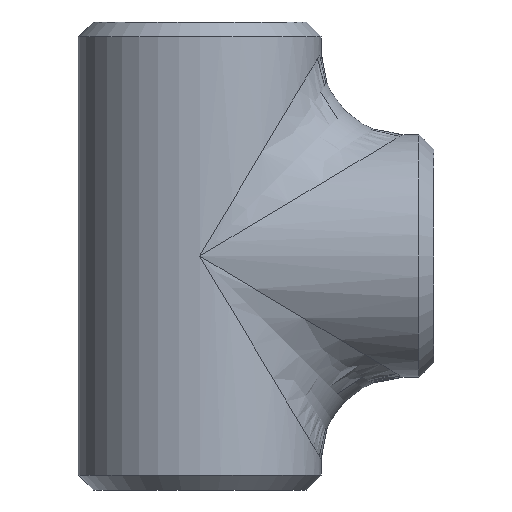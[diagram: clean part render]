
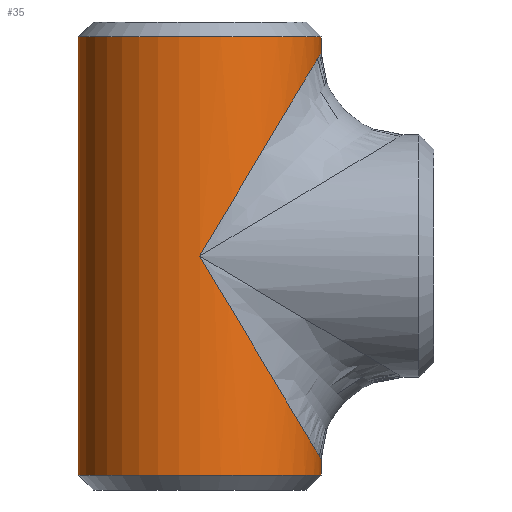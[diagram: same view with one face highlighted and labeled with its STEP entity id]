
A CAD part, front view. The second image highlights one B-rep face of the part: STEP entity #35.
In plain terms, the highlighted cylindrical face has radius 44.45 mm (diameter 88.9 mm), a partial arc.
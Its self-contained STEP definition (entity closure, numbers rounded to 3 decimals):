
#5 = CARTESIAN_POINT ( 'NONE',  ( 44.45, 0., -74.45 ) ) ;
#10 = EDGE_CURVE ( 'NONE', #217, #868, #406, .T. ) ;
#35 = ADVANCED_FACE ( 'NONE', ( #965 ), #846, .T. ) ;
#71 = EDGE_CURVE ( 'NONE', #622, #1042, #1344, .T. ) ;
#78 = VECTOR ( 'NONE', #987, 1000. ) ;
#94 = CARTESIAN_POINT ( 'NONE',  ( 44.45, -26.038, 74.45 ) ) ;
#113 = EDGE_CURVE ( 'NONE', #924, #1249, #275, .T. ) ;
#174 = VECTOR ( 'NONE', #1363, 1000. ) ;
#188 = ORIENTED_EDGE ( 'NONE', *, *, #113, .T. ) ;
#217 = VERTEX_POINT ( 'NONE', #529 ) ;
#227 = VECTOR ( 'NONE', #739, 1000. ) ;
#252 = ORIENTED_EDGE ( 'NONE', *, *, #755, .T. ) ;
#275 =( BOUNDED_CURVE ( )  B_SPLINE_CURVE ( 3, ( #627, #335, #94, #834 ),
 .UNSPECIFIED., .F., .T. ) 
 B_SPLINE_CURVE_WITH_KNOTS ( ( 4, 4 ),
 ( 1.571, 3.142 ),
 .UNSPECIFIED. ) 
 CURVE ( )  GEOMETRIC_REPRESENTATION_ITEM ( )  RATIONAL_B_SPLINE_CURVE ( ( 1., 0.805, 0.805, 1. ) ) 
 REPRESENTATION_ITEM ( '' )  );
#301 = DIRECTION ( 'NONE',  ( 1., 0., 0. ) ) ;
#311 = CARTESIAN_POINT ( 'NONE',  ( 44.45, 0., 85.7 ) ) ;
#326 = DIRECTION ( 'NONE',  ( 0., 0., -1. ) ) ;
#335 = CARTESIAN_POINT ( 'NONE',  ( 26.038, -44.45, 43.612 ) ) ;
#381 = EDGE_CURVE ( 'NONE', #622, #1249, #1371, .T. ) ;
#389 = ORIENTED_EDGE ( 'NONE', *, *, #10, .T. ) ;
#406 = CIRCLE ( 'NONE', #1304, 44.45 ) ;
#410 = DIRECTION ( 'NONE',  ( 1., 0., 0. ) ) ;
#435 = AXIS2_PLACEMENT_3D ( 'NONE', #753, #520, #410 ) ;
#444 = DIRECTION ( 'NONE',  ( -1., 0., 0. ) ) ;
#471 = EDGE_CURVE ( 'NONE', #1064, #868, #743, .T. ) ;
#520 = DIRECTION ( 'NONE',  ( 0., 0., -1. ) ) ;
#529 = CARTESIAN_POINT ( 'NONE',  ( -44.45, 0., -80.22 ) ) ;
#546 = CARTESIAN_POINT ( 'NONE',  ( 44.45, -26.038, -74.45 ) ) ;
#555 = ORIENTED_EDGE ( 'NONE', *, *, #471, .F. ) ;
#564 = LINE ( 'NONE', #1101, #78 ) ;
#568 = AXIS2_PLACEMENT_3D ( 'NONE', #1152, #326, #444 ) ;
#598 = CARTESIAN_POINT ( 'NONE',  ( 0., -44.45, 0. ) ) ;
#620 = DIRECTION ( 'NONE',  ( 0., 0., 1. ) ) ;
#622 = VERTEX_POINT ( 'NONE', #877 ) ;
#627 = CARTESIAN_POINT ( 'NONE',  ( 0., -44.45, 0. ) ) ;
#727 = ORIENTED_EDGE ( 'NONE', *, *, #381, .F. ) ;
#739 = DIRECTION ( 'NONE',  ( 0., 0., -1. ) ) ;
#743 = LINE ( 'NONE', #932, #174 ) ;
#753 = CARTESIAN_POINT ( 'NONE',  ( 0., 0., 80.22 ) ) ;
#755 = EDGE_CURVE ( 'NONE', #1064, #924, #842, .T. ) ;
#764 = CARTESIAN_POINT ( 'NONE',  ( 26.038, -44.45, -43.612 ) ) ;
#776 = EDGE_CURVE ( 'NONE', #1042, #217, #564, .T. ) ;
#779 = ORIENTED_EDGE ( 'NONE', *, *, #776, .T. ) ;
#789 = CARTESIAN_POINT ( 'NONE',  ( 0., -44.45, 0. ) ) ;
#818 = ORIENTED_EDGE ( 'NONE', *, *, #71, .T. ) ;
#834 = CARTESIAN_POINT ( 'NONE',  ( 44.45, 0., 74.45 ) ) ;
#837 = CARTESIAN_POINT ( 'NONE',  ( 44.45, 0., -74.45 ) ) ;
#838 = EDGE_LOOP ( 'NONE', ( #727, #818, #779, #389, #555, #252, #188 ) ) ;
#842 =( BOUNDED_CURVE ( )  B_SPLINE_CURVE ( 3, ( #5, #546, #764, #789 ),
 .UNSPECIFIED., .F., .F. ) 
 B_SPLINE_CURVE_WITH_KNOTS ( ( 4, 4 ),
 ( 3.142, 4.712 ),
 .UNSPECIFIED. ) 
 CURVE ( )  GEOMETRIC_REPRESENTATION_ITEM ( )  RATIONAL_B_SPLINE_CURVE ( ( 1., 0.805, 0.805, 1. ) ) 
 REPRESENTATION_ITEM ( '' )  );
#846 = CYLINDRICAL_SURFACE ( 'NONE', #568, 44.45 ) ;
#868 = VERTEX_POINT ( 'NONE', #910 ) ;
#877 = CARTESIAN_POINT ( 'NONE',  ( 44.45, 0., 80.22 ) ) ;
#910 = CARTESIAN_POINT ( 'NONE',  ( 44.45, 0., -80.22 ) ) ;
#919 = CARTESIAN_POINT ( 'NONE',  ( 0., 0., -80.22 ) ) ;
#924 = VERTEX_POINT ( 'NONE', #598 ) ;
#932 = CARTESIAN_POINT ( 'NONE',  ( 44.45, 0., 85.7 ) ) ;
#965 = FACE_OUTER_BOUND ( 'NONE', #838, .T. ) ;
#987 = DIRECTION ( 'NONE',  ( 0., 0., -1. ) ) ;
#1042 = VERTEX_POINT ( 'NONE', #1366 ) ;
#1064 = VERTEX_POINT ( 'NONE', #837 ) ;
#1101 = CARTESIAN_POINT ( 'NONE',  ( -44.45, 0., 85.7 ) ) ;
#1152 = CARTESIAN_POINT ( 'NONE',  ( 0., 0., 85.7 ) ) ;
#1204 = CARTESIAN_POINT ( 'NONE',  ( 44.45, 0., 74.45 ) ) ;
#1249 = VERTEX_POINT ( 'NONE', #1204 ) ;
#1304 = AXIS2_PLACEMENT_3D ( 'NONE', #919, #620, #301 ) ;
#1344 = CIRCLE ( 'NONE', #435, 44.45 ) ;
#1363 = DIRECTION ( 'NONE',  ( 0., 0., -1. ) ) ;
#1366 = CARTESIAN_POINT ( 'NONE',  ( -44.45, 0., 80.22 ) ) ;
#1371 = LINE ( 'NONE', #311, #227 ) ;
